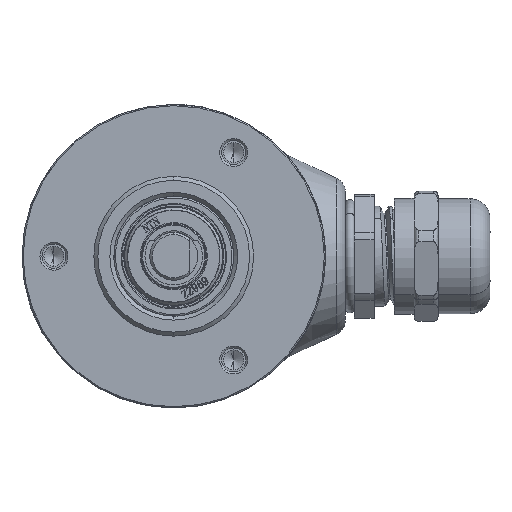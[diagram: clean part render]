
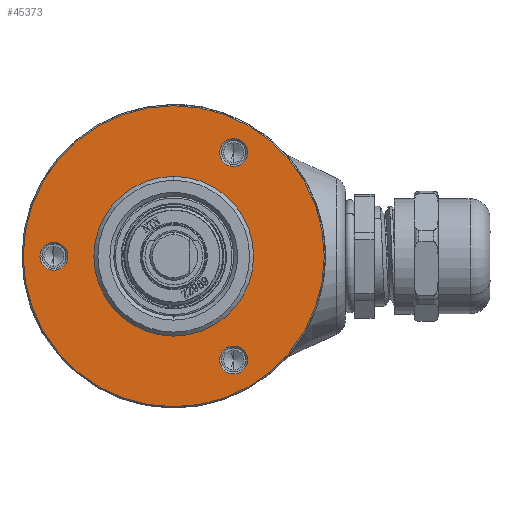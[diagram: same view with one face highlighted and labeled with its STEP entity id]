
A CAD part, front view. The second image highlights one B-rep face of the part: STEP entity #45373.
In plain terms, the highlighted planar face has unit normal (0, -1, 0).
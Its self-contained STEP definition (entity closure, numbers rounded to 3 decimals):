
#265 = ORIENTED_EDGE ( 'NONE', *, *, #16578, .F. ) ;
#407 = CARTESIAN_POINT ( 'NONE',  ( 7.5, 5., -12.99 ) ) ;
#1327 = ORIENTED_EDGE ( 'NONE', *, *, #80402, .T. ) ;
#1492 = EDGE_LOOP ( 'NONE', ( #76132, #265 ) ) ;
#2103 = DIRECTION ( 'NONE',  ( 0., 0., -1. ) ) ;
#3374 = AXIS2_PLACEMENT_3D ( 'NONE', #407, #81813, #67660 ) ;
#3492 = CIRCLE ( 'NONE', #13370, 1.75 ) ;
#3573 = AXIS2_PLACEMENT_3D ( 'NONE', #80297, #46553, #40275 ) ;
#5312 = FACE_BOUND ( 'NONE', #1492, .T. ) ;
#5351 = CARTESIAN_POINT ( 'NONE',  ( -15., 5., -1.75 ) ) ;
#5368 = VERTEX_POINT ( 'NONE', #21613 ) ;
#8542 = FACE_BOUND ( 'NONE', #43912, .T. ) ;
#8822 = ORIENTED_EDGE ( 'NONE', *, *, #83627, .F. ) ;
#9558 = FACE_BOUND ( 'NONE', #84971, .T. ) ;
#11288 = DIRECTION ( 'NONE',  ( 0., 0., -1. ) ) ;
#13370 = AXIS2_PLACEMENT_3D ( 'NONE', #80787, #60206, #19525 ) ;
#14421 = CARTESIAN_POINT ( 'NONE',  ( 0., 5., 9.983 ) ) ;
#16382 = ORIENTED_EDGE ( 'NONE', *, *, #61960, .F. ) ;
#16578 = EDGE_CURVE ( 'NONE', #49407, #58789, #75005, .T. ) ;
#16768 = CARTESIAN_POINT ( 'NONE',  ( 7.5, 5., 12.99 ) ) ;
#17347 = AXIS2_PLACEMENT_3D ( 'NONE', #61534, #69476, #68585 ) ;
#18201 = DIRECTION ( 'NONE',  ( 0., -1., 0. ) ) ;
#18988 = AXIS2_PLACEMENT_3D ( 'NONE', #16768, #30331, #77770 ) ;
#19525 = DIRECTION ( 'NONE',  ( 0., 0., -1. ) ) ;
#19542 = DIRECTION ( 'NONE',  ( 0., -1., 0. ) ) ;
#19845 = DIRECTION ( 'NONE',  ( 0., 0., -1. ) ) ;
#20482 = EDGE_CURVE ( 'NONE', #56182, #5368, #71646, .T. ) ;
#20763 = AXIS2_PLACEMENT_3D ( 'NONE', #36715, #71451, #85006 ) ;
#21341 = EDGE_CURVE ( 'NONE', #29580, #46318, #3492, .T. ) ;
#21613 = CARTESIAN_POINT ( 'NONE',  ( 7.5, 5., 11.24 ) ) ;
#27552 = FACE_OUTER_BOUND ( 'NONE', #76974, .T. ) ;
#28950 = CARTESIAN_POINT ( 'NONE',  ( 0., 5., 18.85 ) ) ;
#29580 = VERTEX_POINT ( 'NONE', #33130 ) ;
#29724 = DIRECTION ( 'NONE',  ( 0., 0., -1. ) ) ;
#30331 = DIRECTION ( 'NONE',  ( 0., -1., 0. ) ) ;
#32964 = CIRCLE ( 'NONE', #17347, 9.983 ) ;
#33130 = CARTESIAN_POINT ( 'NONE',  ( 7.5, 5., -14.74 ) ) ;
#36074 = DIRECTION ( 'NONE',  ( 0., -1., 0. ) ) ;
#36683 = CARTESIAN_POINT ( 'NONE',  ( 0., 5., 0. ) ) ;
#36715 = CARTESIAN_POINT ( 'NONE',  ( 0., 5., -9.983 ) ) ;
#38283 = DIRECTION ( 'NONE',  ( 0., 0., -1. ) ) ;
#39578 = CIRCLE ( 'NONE', #68209, 18.85 ) ;
#40200 = CIRCLE ( 'NONE', #61725, 18.85 ) ;
#40275 = DIRECTION ( 'NONE',  ( 0., 0., -1. ) ) ;
#40587 = AXIS2_PLACEMENT_3D ( 'NONE', #70362, #84516, #29724 ) ;
#40913 = VERTEX_POINT ( 'NONE', #59295 ) ;
#43616 = CIRCLE ( 'NONE', #40587, 1.75 ) ;
#43696 = CARTESIAN_POINT ( 'NONE',  ( 7.5, 5., -11.24 ) ) ;
#43912 = EDGE_LOOP ( 'NONE', ( #16382, #62700 ) ) ;
#45068 = DIRECTION ( 'NONE',  ( 0., -1., 0. ) ) ;
#45373 = ADVANCED_FACE ( 'NONE', ( #54116, #8542, #5312, #27552, #9558 ), #77331, .T. ) ;
#45503 = EDGE_CURVE ( 'NONE', #84402, #60926, #40200, .T. ) ;
#46318 = VERTEX_POINT ( 'NONE', #43696 ) ;
#46362 = CIRCLE ( 'NONE', #53201, 1.75 ) ;
#46553 = DIRECTION ( 'NONE',  ( 0., -1., 0. ) ) ;
#47407 = CARTESIAN_POINT ( 'NONE',  ( 0., 5., -18.85 ) ) ;
#48163 = AXIS2_PLACEMENT_3D ( 'NONE', #36683, #36074, #2103 ) ;
#49407 = VERTEX_POINT ( 'NONE', #60205 ) ;
#51300 = CARTESIAN_POINT ( 'NONE',  ( 0., 5., 0. ) ) ;
#52256 = EDGE_CURVE ( 'NONE', #40913, #52979, #76785, .T. ) ;
#52979 = VERTEX_POINT ( 'NONE', #14421 ) ;
#53201 = AXIS2_PLACEMENT_3D ( 'NONE', #85403, #18201, #38283 ) ;
#54116 = FACE_BOUND ( 'NONE', #74494, .T. ) ;
#56182 = VERTEX_POINT ( 'NONE', #78863 ) ;
#58180 = EDGE_CURVE ( 'NONE', #58789, #49407, #46362, .T. ) ;
#58789 = VERTEX_POINT ( 'NONE', #5351 ) ;
#59295 = CARTESIAN_POINT ( 'NONE',  ( 0., 5., -9.983 ) ) ;
#60205 = CARTESIAN_POINT ( 'NONE',  ( -15., 5., 1.75 ) ) ;
#60206 = DIRECTION ( 'NONE',  ( 0., -1., 0. ) ) ;
#60926 = VERTEX_POINT ( 'NONE', #47407 ) ;
#61534 = CARTESIAN_POINT ( 'NONE',  ( 0., 5., 0. ) ) ;
#61725 = AXIS2_PLACEMENT_3D ( 'NONE', #86769, #45068, #11288 ) ;
#61960 = EDGE_CURVE ( 'NONE', #5368, #56182, #43616, .T. ) ;
#62700 = ORIENTED_EDGE ( 'NONE', *, *, #20482, .F. ) ;
#64124 = CIRCLE ( 'NONE', #3374, 1.75 ) ;
#64335 = ORIENTED_EDGE ( 'NONE', *, *, #45503, .T. ) ;
#67660 = DIRECTION ( 'NONE',  ( 0., 0., -1. ) ) ;
#68209 = AXIS2_PLACEMENT_3D ( 'NONE', #51300, #19542, #19845 ) ;
#68585 = DIRECTION ( 'NONE',  ( 0., 0., -1. ) ) ;
#69476 = DIRECTION ( 'NONE',  ( 0., -1., 0. ) ) ;
#69505 = ORIENTED_EDGE ( 'NONE', *, *, #76657, .F. ) ;
#69813 = ORIENTED_EDGE ( 'NONE', *, *, #52256, .F. ) ;
#70362 = CARTESIAN_POINT ( 'NONE',  ( 7.5, 5., 12.99 ) ) ;
#71451 = DIRECTION ( 'NONE',  ( 0., -1., 0. ) ) ;
#71646 = CIRCLE ( 'NONE', #18988, 1.75 ) ;
#74494 = EDGE_LOOP ( 'NONE', ( #84012, #8822 ) ) ;
#75005 = CIRCLE ( 'NONE', #3573, 1.75 ) ;
#76132 = ORIENTED_EDGE ( 'NONE', *, *, #58180, .F. ) ;
#76657 = EDGE_CURVE ( 'NONE', #52979, #40913, #32964, .T. ) ;
#76785 = CIRCLE ( 'NONE', #48163, 9.983 ) ;
#76974 = EDGE_LOOP ( 'NONE', ( #64335, #1327 ) ) ;
#77331 = PLANE ( 'NONE',  #20763 ) ;
#77770 = DIRECTION ( 'NONE',  ( 0., 0., -1. ) ) ;
#78863 = CARTESIAN_POINT ( 'NONE',  ( 7.5, 5., 14.74 ) ) ;
#80297 = CARTESIAN_POINT ( 'NONE',  ( -15., 5., 0. ) ) ;
#80402 = EDGE_CURVE ( 'NONE', #60926, #84402, #39578, .T. ) ;
#80787 = CARTESIAN_POINT ( 'NONE',  ( 7.5, 5., -12.99 ) ) ;
#81813 = DIRECTION ( 'NONE',  ( 0., -1., 0. ) ) ;
#83627 = EDGE_CURVE ( 'NONE', #46318, #29580, #64124, .T. ) ;
#84012 = ORIENTED_EDGE ( 'NONE', *, *, #21341, .F. ) ;
#84402 = VERTEX_POINT ( 'NONE', #28950 ) ;
#84516 = DIRECTION ( 'NONE',  ( 0., -1., 0. ) ) ;
#84971 = EDGE_LOOP ( 'NONE', ( #69813, #69505 ) ) ;
#85006 = DIRECTION ( 'NONE',  ( 0., 0., -1. ) ) ;
#85403 = CARTESIAN_POINT ( 'NONE',  ( -15., 5., 0. ) ) ;
#86769 = CARTESIAN_POINT ( 'NONE',  ( 0., 5., 0. ) ) ;
